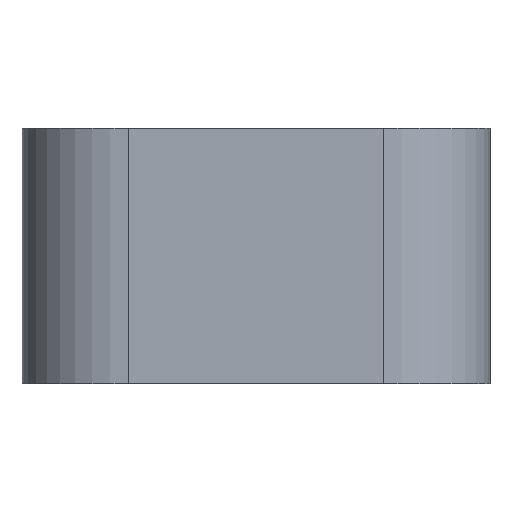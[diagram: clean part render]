
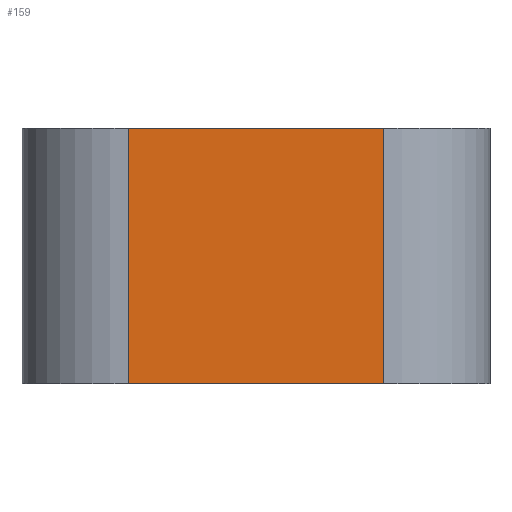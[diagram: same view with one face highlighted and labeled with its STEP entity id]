
A CAD part, front view. The second image highlights one B-rep face of the part: STEP entity #159.
In plain terms, the highlighted planar face has unit normal (0, -1, 0).
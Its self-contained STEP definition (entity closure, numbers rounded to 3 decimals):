
#19 = EDGE_CURVE ( 'NONE', #561, #266, #731, .T. ) ;
#29 = ORIENTED_EDGE ( 'NONE', *, *, #19, .T. ) ;
#38 = CARTESIAN_POINT ( 'NONE',  ( -6., -6., 0. ) ) ;
#39 = LINE ( 'NONE', #689, #609 ) ;
#55 = DIRECTION ( 'NONE',  ( 0., 0., 1. ) ) ;
#66 = DIRECTION ( 'NONE',  ( 0., 0., -1. ) ) ;
#137 = CARTESIAN_POINT ( 'NONE',  ( -6., -6., 12. ) ) ;
#159 = ADVANCED_FACE ( 'NONE', ( #729 ), #647, .F. ) ;
#160 = CARTESIAN_POINT ( 'NONE',  ( -11., -6., 12. ) ) ;
#163 = DIRECTION ( 'NONE',  ( 1., 0., 0. ) ) ;
#185 = VERTEX_POINT ( 'NONE', #394 ) ;
#235 = VERTEX_POINT ( 'NONE', #137 ) ;
#266 = VERTEX_POINT ( 'NONE', #456 ) ;
#267 = DIRECTION ( 'NONE',  ( 0., 1., 0. ) ) ;
#313 = ORIENTED_EDGE ( 'NONE', *, *, #718, .T. ) ;
#316 = LINE ( 'NONE', #370, #648 ) ;
#365 = CARTESIAN_POINT ( 'NONE',  ( -11., -6., 0. ) ) ;
#370 = CARTESIAN_POINT ( 'NONE',  ( -6., -6., 12. ) ) ;
#385 = DIRECTION ( 'NONE',  ( 0., 0., 1. ) ) ;
#394 = CARTESIAN_POINT ( 'NONE',  ( 6., -6., 12. ) ) ;
#410 = EDGE_LOOP ( 'NONE', ( #764, #425, #29, #313 ) ) ;
#415 = VECTOR ( 'NONE', #547, 1000. ) ;
#425 = ORIENTED_EDGE ( 'NONE', *, *, #693, .T. ) ;
#449 = EDGE_CURVE ( 'NONE', #235, #185, #632, .T. ) ;
#456 = CARTESIAN_POINT ( 'NONE',  ( 6., -6., 0. ) ) ;
#464 = VECTOR ( 'NONE', #163, 1000. ) ;
#547 = DIRECTION ( 'NONE',  ( 1., 0., 0. ) ) ;
#561 = VERTEX_POINT ( 'NONE', #38 ) ;
#609 = VECTOR ( 'NONE', #55, 1000. ) ;
#632 = LINE ( 'NONE', #160, #464 ) ;
#643 = CARTESIAN_POINT ( 'NONE',  ( -11., -6., 12. ) ) ;
#647 = PLANE ( 'NONE',  #797 ) ;
#648 = VECTOR ( 'NONE', #66, 1000. ) ;
#689 = CARTESIAN_POINT ( 'NONE',  ( 6., -6., 12. ) ) ;
#693 = EDGE_CURVE ( 'NONE', #235, #561, #316, .T. ) ;
#718 = EDGE_CURVE ( 'NONE', #266, #185, #39, .T. ) ;
#729 = FACE_OUTER_BOUND ( 'NONE', #410, .T. ) ;
#731 = LINE ( 'NONE', #365, #415 ) ;
#764 = ORIENTED_EDGE ( 'NONE', *, *, #449, .F. ) ;
#797 = AXIS2_PLACEMENT_3D ( 'NONE', #643, #267, #385 ) ;
